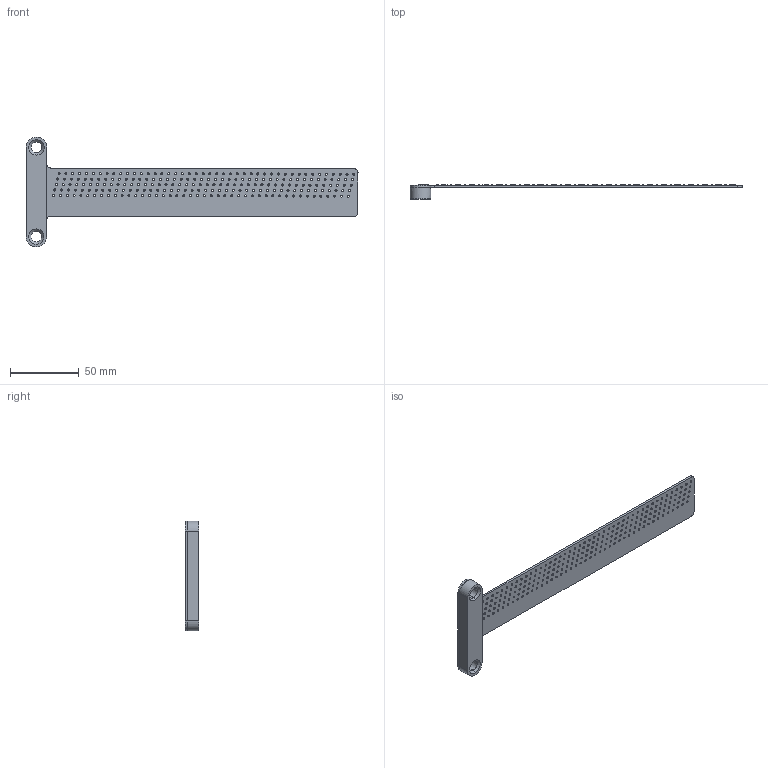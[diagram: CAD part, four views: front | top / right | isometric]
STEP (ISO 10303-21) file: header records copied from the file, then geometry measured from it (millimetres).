
FILE_DESCRIPTION((''),'2;1');
FILE_NAME('MARKING_GAUGE_METRIC','2021-02-20T20:40:14',('jhaag'),(''),'CREO PARAMETRIC BY PTC INC, 2020053','CREO PARAMETRIC BY PTC INC, 2020053','');
FILE_SCHEMA(('CONFIG_CONTROL_DESIGN'));
Products named in the file (1): MARKING_GAUGE_METRIC
Bounding box: 242.1 x 10.2 x 80 mm (x, y, z)
Volume: 22296.8 mm3; surface area: 24902.2 mm2
Topology: 105 solids, 105 shells, 2270 faces, 5730 edges, 3672 vertices
Faces by surface type: extrusion 769, cylinder 548, plane 505, cone 448
Entity records: 71781 total; most frequent: CARTESIAN_POINT 18073, ORIENTED_EDGE 11460, DIRECTION 9509, EDGE_CURVE 5730, VERTEX_POINT 3672, VECTOR 3411, AXIS2_PLACEMENT_3D 3049, EDGE_LOOP 2792
